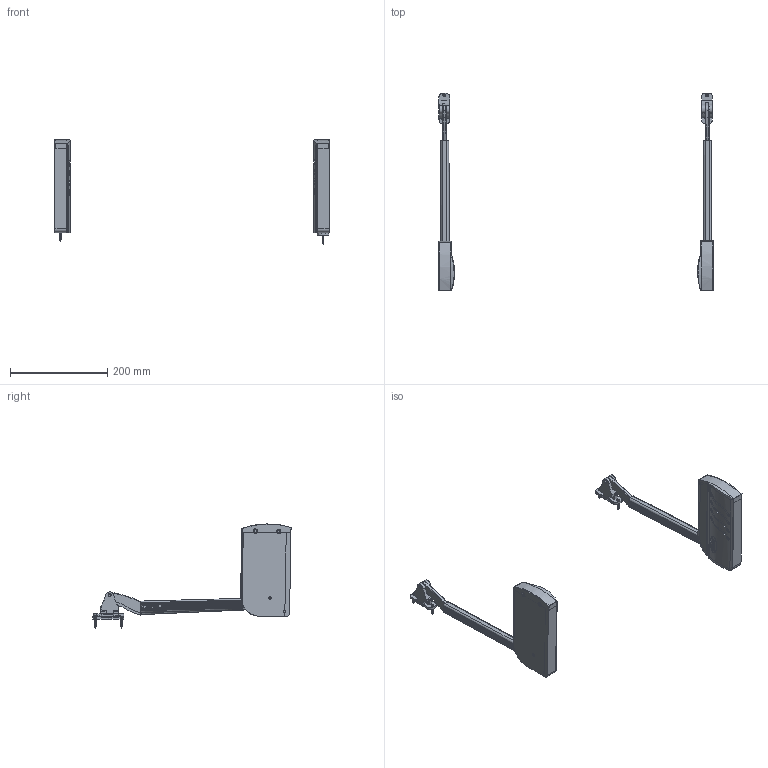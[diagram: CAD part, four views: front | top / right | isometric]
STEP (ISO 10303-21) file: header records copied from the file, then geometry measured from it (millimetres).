
FILE_DESCRIPTION(/* description */ (''),/* implementation_level */ '2;1');
FILE_NAME(/* name */ 'C:\Users\dmitruk\Documents\WORK\Подъемники\Подъемники\Подъемник HERMES\Подъем HERMES 600 -700 мм закыто.stp',/* time_stamp */ '2022-08-04T16:59:45+03:00',/* author */ ('dmitruk'),/* organization */ (''),/* preprocessor_version */ 'ST-DEVELOPER v16.5',/* originating_system */ 'Autodesk Inventor 2017',/* authorisation */ '');
FILE_SCHEMA (('AUTOMOTIVE_DESIGN { 1 0 10303 214 3 1 1 }'));
Length unit declared in the file: millimetre
Products named in the file (9): Подъем HERMES 600 -700 \X2\043C
043C\X0\ закыто; Подъем HERMES 600-700 \X2\043B
04350432\X0\ закрытый; Крышка \X2\043F043E0434044A0435
043C043D0438043A0430\X0\ 1; Подъем HERMES 600-700 \X2\0437
0430043A0440044B0442044B0439\X0\; Крышка \X2\043F043E0434044A0435
043C043D0438043A0430\X0\; Механизм; Рычаг 300; Крепл; p50
Assembly tree (14 placements, depth 3):
  Подъем HERMES 600 -700 \X2\043C
043C\X0\ закыто
    Подъем HERMES 600-700 \X2\043B
04350432\X0\ закрытый
      Механизм
      Рычаг 300
      Крепл
      p50  x2
      Крышка \X2\043F043E0434044A0435
043C043D0438043A0430\X0\ 1
    Подъем HERMES 600-700 \X2\0437
0430043A0440044B0442044B0439\X0\
      Крышка \X2\043F043E0434044A0435
043C043D0438043A0430\X0\
      Механизм
      Рычаг 300
      Крепл
      p50  x2
Bounding box: 564.39 x 407.16 x 213.88 mm (x, y, z)
Volume: 827698.5 mm3; surface area: 351792.4 mm2
Topology: 12 solids, 12 shells, 920 faces, 2600 edges, 1708 vertices
Faces by surface type: cylinder 454, plane 374, bspline 42, cone 34, torus 16
Full cylindrical faces by diameter (mm): 2.9 x76, 4 x2, 5 x14, 6 x4, 7 x8, 47.803 x2
Entity records: 22487 total; most frequent: CARTESIAN_POINT 8850, ORIENTED_EDGE 2974, DIRECTION 2577, EDGE_CURVE 1485, VERTEX_POINT 987, AXIS2_PLACEMENT_3D 925, LINE 727, VECTOR 727
